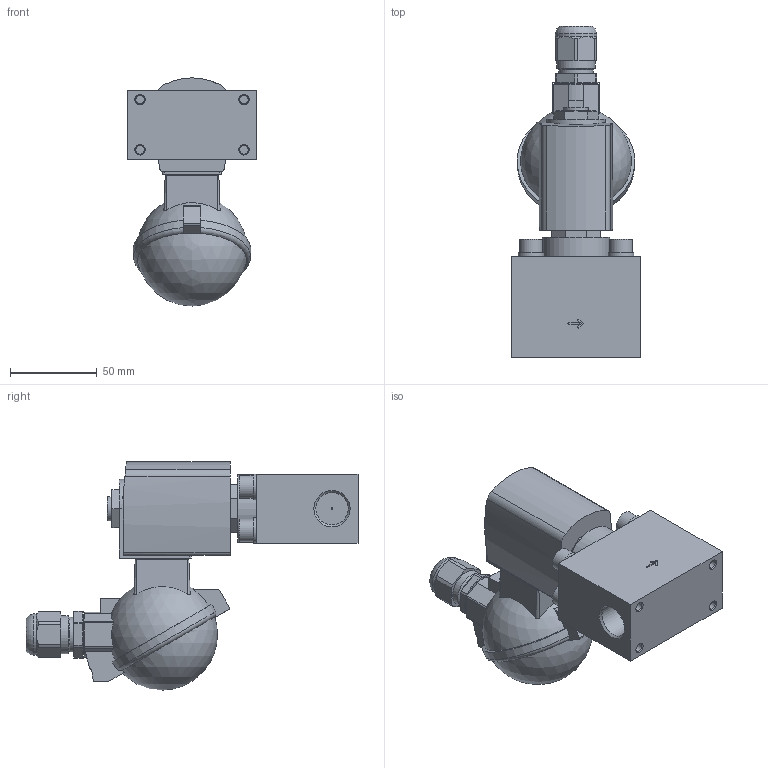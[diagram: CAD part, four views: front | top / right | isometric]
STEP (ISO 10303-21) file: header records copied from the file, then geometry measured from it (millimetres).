
FILE_DESCRIPTION(/* description */ ('STEP AP214'),/* implementation_level */ '2;1');
FILE_NAME(/* name */ '6240-383899-2_2-way_solenoid_valve__pilot-controlled',/* time_stamp */ '2024-05-10T12:49:10+02:00',/* author */ ('License CC BY-ND 4.0'),/* organization */ ('CADENAS'),/* preprocessor_version */ 'ST-DEVELOPER v19.3',/* originating_system */ 'PARTsolutions',/* authorisation */ ' ');
FILE_SCHEMA (('AUTOMOTIVE_DESIGN {1 0 10303 214 3 1 1}'));
Length unit declared in the file: millimetre
Products named in the file (3): 6240-383899-2/2-way solenoid valve, pilot-controlled; 6240-Gehaeuse-2/2-Wege-Magnetventil, vorgesteuert MX32G1/212VA; AC10ex-42ATEXKLK_MB05Plan-Coil
Assembly tree (2 placements, depth 2):
  6240-383899-2/2-way solenoid valve, pilot-controlled
    6240-Gehaeuse-2/2-Wege-Magnetventil, vorgesteuert MX32G1/212VA
    AC10ex-42ATEXKLK_MB05Plan-Coil
Bounding box: 75 x 191.6 x 131.7 mm (x, y, z)
Volume: 497769.1 mm3; surface area: 64464.2 mm2
Topology: 2 solids, 2 shells, 238 faces, 587 edges, 384 vertices
Faces by surface type: plane 144, cylinder 62, cone 25, sphere 4, torus 3
Full cylindrical faces by diameter (mm): 1 x1, 3.242 x1, 4.917 x4, 13 x4, 14 x2, 14.8 x4, 17.294 x1, 18.631 x2, 20 x1, 22 x1, 23 x1, 24 x1, 27 x1, 39 x1
Entity records: 7937 total; most frequent: CARTESIAN_POINT 1297, DIRECTION 1182, ORIENTED_EDGE 1086, EDGE_CURVE 543, AXIS2_PLACEMENT_3D 436, VERTEX_POINT 377, LINE 310, VECTOR 310
